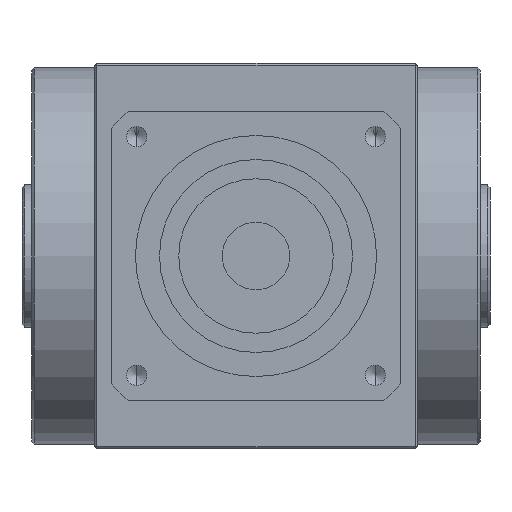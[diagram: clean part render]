
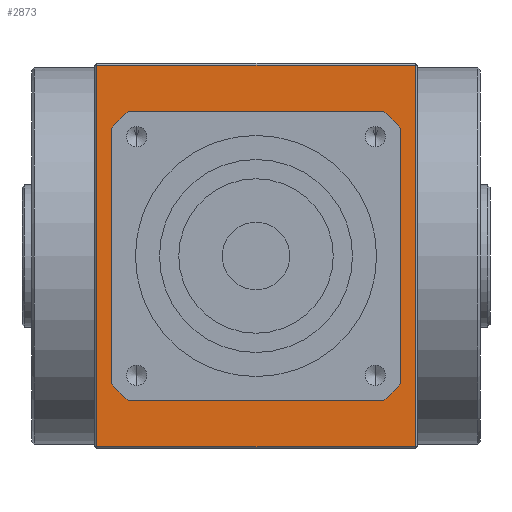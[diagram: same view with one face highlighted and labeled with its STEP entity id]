
A CAD part, front view. The second image highlights one B-rep face of the part: STEP entity #2873.
In plain terms, the highlighted planar face has unit normal (0, -1, 0).
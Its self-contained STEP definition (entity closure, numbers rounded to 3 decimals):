
#73 = CARTESIAN_POINT ( 'NONE',  ( 33.5, -40., 40. ) ) ;
#130 = DIRECTION ( 'NONE',  ( 0., -1., 0. ) ) ;
#515 = CARTESIAN_POINT ( 'NONE',  ( 0., -40., 15.494 ) ) ;
#728 = CARTESIAN_POINT ( 'NONE',  ( -33., -40., 39.5 ) ) ;
#858 = EDGE_CURVE ( 'NONE', #3349, #6263, #7142, .T. ) ;
#878 = DIRECTION ( 'NONE',  ( 0., 0., 1. ) ) ;
#1734 = VECTOR ( 'NONE', #9583, 1000. ) ;
#1833 = CARTESIAN_POINT ( 'NONE',  ( 33., -40., 40. ) ) ;
#1907 = LINE ( 'NONE', #9555, #6800 ) ;
#2047 = VERTEX_POINT ( 'NONE', #728 ) ;
#2172 = EDGE_CURVE ( 'NONE', #2047, #9013, #2593, .T. ) ;
#2330 = CARTESIAN_POINT ( 'NONE',  ( 33.5, -40., 39.5 ) ) ;
#2529 = DIRECTION ( 'NONE',  ( 0., -1., 0. ) ) ;
#2593 = LINE ( 'NONE', #2330, #1734 ) ;
#2636 = DIRECTION ( 'NONE',  ( 0., 0., -1. ) ) ;
#2873 = ADVANCED_FACE ( 'NONE', ( #6822, #5644 ), #5918, .F. ) ;
#3150 = EDGE_LOOP ( 'NONE', ( #5777, #5347 ) ) ;
#3349 = VERTEX_POINT ( 'NONE', #8267 ) ;
#3360 = CARTESIAN_POINT ( 'NONE',  ( 33., -40., 39.5 ) ) ;
#3365 = ORIENTED_EDGE ( 'NONE', *, *, #2172, .F. ) ;
#3457 = EDGE_LOOP ( 'NONE', ( #4324, #4468, #3365, #6913 ) ) ;
#3706 = VERTEX_POINT ( 'NONE', #515 ) ;
#3987 = VECTOR ( 'NONE', #2636, 1000. ) ;
#4324 = ORIENTED_EDGE ( 'NONE', *, *, #858, .F. ) ;
#4468 = ORIENTED_EDGE ( 'NONE', *, *, #7017, .F. ) ;
#4644 = DIRECTION ( 'NONE',  ( 0., 0., 1. ) ) ;
#4829 = CARTESIAN_POINT ( 'NONE',  ( 0., -40., 0. ) ) ;
#4860 = EDGE_CURVE ( 'NONE', #6263, #2047, #1907, .T. ) ;
#5347 = ORIENTED_EDGE ( 'NONE', *, *, #6935, .F. ) ;
#5552 = DIRECTION ( 'NONE',  ( 0., 1., 0. ) ) ;
#5599 = VERTEX_POINT ( 'NONE', #7906 ) ;
#5603 = DIRECTION ( 'NONE',  ( 0., 0., -1. ) ) ;
#5644 = FACE_OUTER_BOUND ( 'NONE', #3457, .T. ) ;
#5777 = ORIENTED_EDGE ( 'NONE', *, *, #8462, .F. ) ;
#5918 = PLANE ( 'NONE',  #9341 ) ;
#6263 = VERTEX_POINT ( 'NONE', #7526 ) ;
#6285 = AXIS2_PLACEMENT_3D ( 'NONE', #4829, #130, #5603 ) ;
#6800 = VECTOR ( 'NONE', #4644, 1000. ) ;
#6822 = FACE_BOUND ( 'NONE', #3150, .T. ) ;
#6831 = CARTESIAN_POINT ( 'NONE',  ( 33.5, -40., -39.5 ) ) ;
#6913 = ORIENTED_EDGE ( 'NONE', *, *, #4860, .F. ) ;
#6935 = EDGE_CURVE ( 'NONE', #3706, #5599, #9073, .T. ) ;
#6999 = CARTESIAN_POINT ( 'NONE',  ( 0., -40., 0. ) ) ;
#7017 = EDGE_CURVE ( 'NONE', #9013, #3349, #9415, .T. ) ;
#7142 = LINE ( 'NONE', #6831, #8912 ) ;
#7526 = CARTESIAN_POINT ( 'NONE',  ( -33., -40., -39.5 ) ) ;
#7670 = DIRECTION ( 'NONE',  ( 0., 0., -1. ) ) ;
#7701 = CIRCLE ( 'NONE', #6285, 15.494 ) ;
#7906 = CARTESIAN_POINT ( 'NONE',  ( 0., -40., -15.494 ) ) ;
#8267 = CARTESIAN_POINT ( 'NONE',  ( 33., -40., -39.5 ) ) ;
#8462 = EDGE_CURVE ( 'NONE', #5599, #3706, #7701, .T. ) ;
#8881 = DIRECTION ( 'NONE',  ( -1., 0., 0. ) ) ;
#8900 = AXIS2_PLACEMENT_3D ( 'NONE', #6999, #2529, #7670 ) ;
#8912 = VECTOR ( 'NONE', #8881, 1000. ) ;
#9013 = VERTEX_POINT ( 'NONE', #3360 ) ;
#9073 = CIRCLE ( 'NONE', #8900, 15.494 ) ;
#9341 = AXIS2_PLACEMENT_3D ( 'NONE', #73, #5552, #878 ) ;
#9415 = LINE ( 'NONE', #1833, #3987 ) ;
#9555 = CARTESIAN_POINT ( 'NONE',  ( -33., -40., 40. ) ) ;
#9583 = DIRECTION ( 'NONE',  ( 1., 0., 0. ) ) ;
